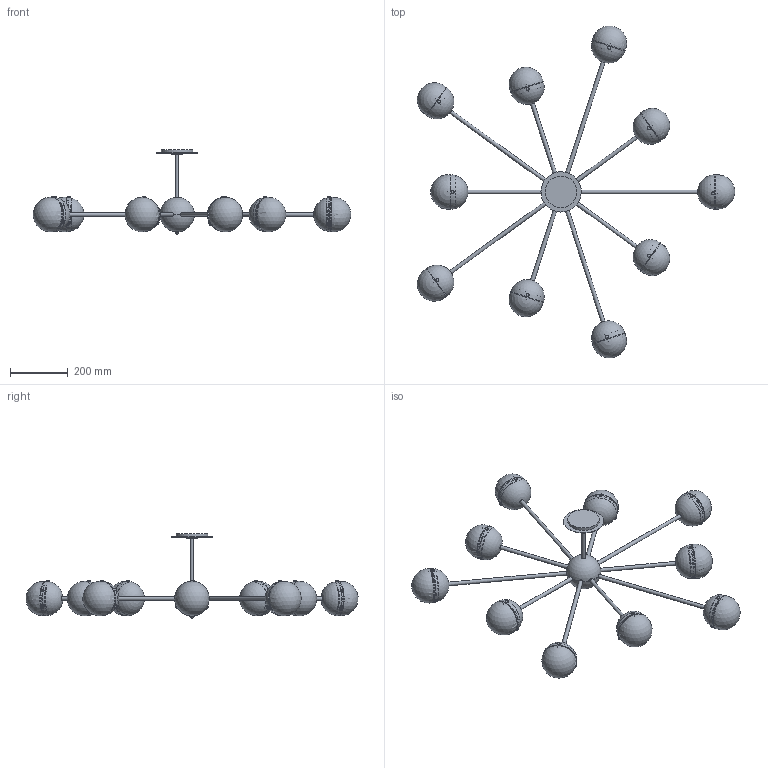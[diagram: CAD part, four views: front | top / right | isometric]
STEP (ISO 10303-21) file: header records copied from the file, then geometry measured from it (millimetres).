
FILE_DESCRIPTION(/* description */ (''),/* implementation_level */ '2;1');
FILE_NAME(/* name */ 'T:\B274 Molecule Double Round Chandelier 47''''\Pliki bryłowe handlowe\B274 Molecule Spark Round 10 3D files_na stronę\B274 Molecule Spark Round 10.stp',/* time_stamp */ '2022-02-02T15:35:46+01:00',/* author */ ('Mariusz Awariusz'),/* organization */ (''),/* preprocessor_version */ 'ST-DEVELOPER v18.1',/* originating_system */ 'Autodesk Inventor 2022',/* authorisation */ '');
FILE_SCHEMA (('AUTOMOTIVE_DESIGN { 1 0 10303 214 3 1 1 }'));
Products named in the file (1): B274 Molecule Double Round Chandelier 47'' CE V1_na potrzeby plikó
w 3D_2_jako część_korpusy bryłowe
Bounding box: 1103.99 x 1154.49 x 292.58 mm (x, y, z)
Volume: 1391754.7 mm3; surface area: 1390535.1 mm2
Topology: 1867 solids, 1867 shells, 15163 faces, 34280 edges, 22787 vertices
Faces by surface type: plane 12732, cylinder 1957, bspline 240, torus 100, sphere 75, cone 59
Full cylindrical faces by diameter (mm): 3.242 x30, 4 x30, 6 x30, 10 x12, 13 x11, 34.5 x1, 36 x1, 109 x10, 110 x1, 112 x10, 140 x1
Entity records: 427652 total; most frequent: CARTESIAN_POINT 84965, ORIENTED_EDGE 68478, DIRECTION 67928, EDGE_CURVE 34239, LINE 29054, VECTOR 29054, VERTEX_POINT 22787, AXIS2_PLACEMENT_3D 19437
